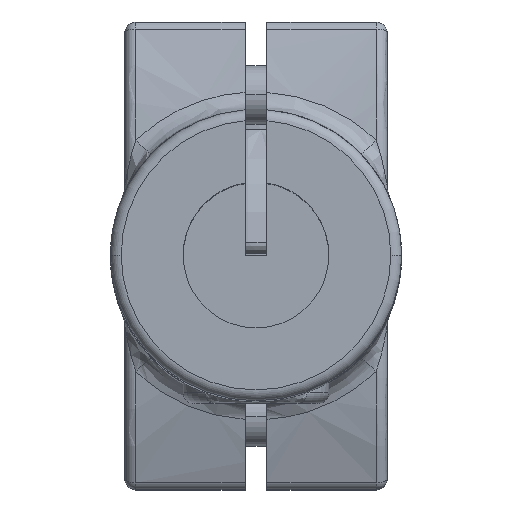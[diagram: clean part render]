
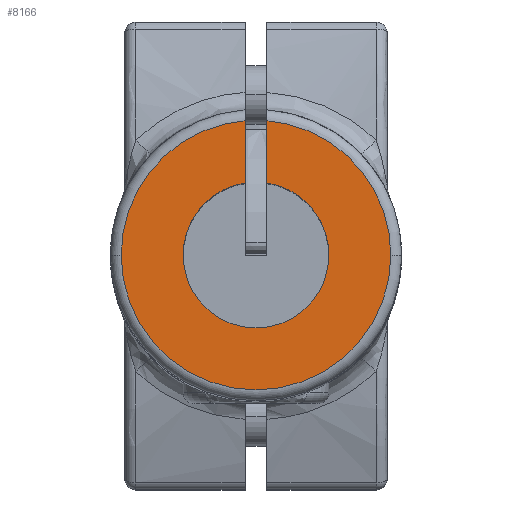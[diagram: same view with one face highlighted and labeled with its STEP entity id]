
A CAD part, top view. The second image highlights one B-rep face of the part: STEP entity #8166.
In plain terms, the highlighted planar face has unit normal (0, 0, 1) as drawn and (0, 0, -1) by its records, which use the part's own axes.
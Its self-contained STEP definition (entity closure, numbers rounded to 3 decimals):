
#92 = ORIENTED_EDGE ( 'NONE', *, *, #7909, .T. ) ;
#336 = VERTEX_POINT ( 'NONE', #3693 ) ;
#367 = CARTESIAN_POINT ( 'NONE',  ( 0., 0., 0. ) ) ;
#1009 = CIRCLE ( 'NONE', #4505, 18.5 ) ;
#1426 = CARTESIAN_POINT ( 'NONE',  ( 0., 0., 0. ) ) ;
#1598 = AXIS2_PLACEMENT_3D ( 'NONE', #14761, #9679, #5649 ) ;
#1609 = ORIENTED_EDGE ( 'NONE', *, *, #4093, .F. ) ;
#1847 = VERTEX_POINT ( 'NONE', #2526 ) ;
#1870 = ORIENTED_EDGE ( 'NONE', *, *, #5693, .T. ) ;
#1890 = EDGE_CURVE ( 'NONE', #10944, #4547, #9833, .T. ) ;
#1894 = DIRECTION ( 'NONE',  ( 0., 0., -1. ) ) ;
#1928 = AXIS2_PLACEMENT_3D ( 'NONE', #13238, #3317, #9751 ) ;
#2526 = CARTESIAN_POINT ( 'NONE',  ( -10., 0., 0. ) ) ;
#2555 = EDGE_CURVE ( 'NONE', #336, #12856, #11498, .T. ) ;
#2960 = DIRECTION ( 'NONE',  ( 1., 0., 0. ) ) ;
#3317 = DIRECTION ( 'NONE',  ( 0., 0., 1. ) ) ;
#3379 = CARTESIAN_POINT ( 'NONE',  ( 1.5, 18.439, 0. ) ) ;
#3693 = CARTESIAN_POINT ( 'NONE',  ( 10., 0., 0. ) ) ;
#4054 = ORIENTED_EDGE ( 'NONE', *, *, #11325, .F. ) ;
#4093 = EDGE_CURVE ( 'NONE', #10944, #12856, #8560, .T. ) ;
#4253 = CIRCLE ( 'NONE', #15449, 18.5 ) ;
#4505 = AXIS2_PLACEMENT_3D ( 'NONE', #13362, #1894, #16028 ) ;
#4547 = VERTEX_POINT ( 'NONE', #14794 ) ;
#4553 = CIRCLE ( 'NONE', #11226, 10. ) ;
#4602 = AXIS2_PLACEMENT_3D ( 'NONE', #13131, #14721, #13454 ) ;
#4749 = AXIS2_PLACEMENT_3D ( 'NONE', #1426, #6533, #2960 ) ;
#4939 = DIRECTION ( 'NONE',  ( -1., 0., 0. ) ) ;
#5239 = VECTOR ( 'NONE', #6802, 1000. ) ;
#5497 = DIRECTION ( 'NONE',  ( 0., 0., -1. ) ) ;
#5649 = DIRECTION ( 'NONE',  ( -1., 0., 0. ) ) ;
#5651 = EDGE_CURVE ( 'NONE', #11985, #7978, #4253, .T. ) ;
#5693 = EDGE_CURVE ( 'NONE', #4547, #11985, #1009, .T. ) ;
#5949 = DIRECTION ( 'NONE',  ( 0., 0., 1. ) ) ;
#6533 = DIRECTION ( 'NONE',  ( 0., 0., -1. ) ) ;
#6802 = DIRECTION ( 'NONE',  ( 0., -1., 0. ) ) ;
#7600 = ORIENTED_EDGE ( 'NONE', *, *, #1890, .T. ) ;
#7909 = EDGE_CURVE ( 'NONE', #1847, #336, #4553, .T. ) ;
#7978 = VERTEX_POINT ( 'NONE', #14990 ) ;
#8100 = ORIENTED_EDGE ( 'NONE', *, *, #5651, .T. ) ;
#8166 = ADVANCED_FACE ( 'NONE', ( #12036 ), #8380, .F. ) ;
#8380 = PLANE ( 'NONE',  #4602 ) ;
#8560 = LINE ( 'NONE', #11994, #5239 ) ;
#9170 = CIRCLE ( 'NONE', #1928, 10. ) ;
#9393 = CARTESIAN_POINT ( 'NONE',  ( -18.5, 0., 0. ) ) ;
#9395 = EDGE_CURVE ( 'NONE', #11784, #1847, #9170, .T. ) ;
#9679 = DIRECTION ( 'NONE',  ( 0., 0., 1. ) ) ;
#9751 = DIRECTION ( 'NONE',  ( -1., 0., 0. ) ) ;
#9833 = CIRCLE ( 'NONE', #4749, 18.5 ) ;
#10594 = DIRECTION ( 'NONE',  ( 0., 1., 0. ) ) ;
#10944 = VERTEX_POINT ( 'NONE', #3379 ) ;
#11226 = AXIS2_PLACEMENT_3D ( 'NONE', #11372, #5949, #4939 ) ;
#11325 = EDGE_CURVE ( 'NONE', #11784, #7978, #14514, .T. ) ;
#11372 = CARTESIAN_POINT ( 'NONE',  ( 0., 0., 0. ) ) ;
#11386 = ORIENTED_EDGE ( 'NONE', *, *, #9395, .T. ) ;
#11498 = CIRCLE ( 'NONE', #1598, 10. ) ;
#11766 = ORIENTED_EDGE ( 'NONE', *, *, #2555, .T. ) ;
#11784 = VERTEX_POINT ( 'NONE', #12805 ) ;
#11985 = VERTEX_POINT ( 'NONE', #9393 ) ;
#11994 = CARTESIAN_POINT ( 'NONE',  ( 1.5, 0., 0. ) ) ;
#12036 = FACE_OUTER_BOUND ( 'NONE', #12209, .T. ) ;
#12209 = EDGE_LOOP ( 'NONE', ( #1609, #7600, #1870, #8100, #4054, #11386, #92, #11766 ) ) ;
#12805 = CARTESIAN_POINT ( 'NONE',  ( -1.5, 9.887, 0. ) ) ;
#12856 = VERTEX_POINT ( 'NONE', #13893 ) ;
#13131 = CARTESIAN_POINT ( 'NONE',  ( 0., 0., 0. ) ) ;
#13238 = CARTESIAN_POINT ( 'NONE',  ( 0., 0., 0. ) ) ;
#13362 = CARTESIAN_POINT ( 'NONE',  ( 0., 0., 0. ) ) ;
#13454 = DIRECTION ( 'NONE',  ( 1., 0., 0. ) ) ;
#13893 = CARTESIAN_POINT ( 'NONE',  ( 1.5, 9.887, 0. ) ) ;
#14514 = LINE ( 'NONE', #14764, #15379 ) ;
#14721 = DIRECTION ( 'NONE',  ( 0., 0., 1. ) ) ;
#14761 = CARTESIAN_POINT ( 'NONE',  ( 0., 0., 0. ) ) ;
#14764 = CARTESIAN_POINT ( 'NONE',  ( -1.5, 0., 0. ) ) ;
#14794 = CARTESIAN_POINT ( 'NONE',  ( 18.5, 0., 0. ) ) ;
#14990 = CARTESIAN_POINT ( 'NONE',  ( -1.5, 18.439, 0. ) ) ;
#15379 = VECTOR ( 'NONE', #10594, 1000. ) ;
#15449 = AXIS2_PLACEMENT_3D ( 'NONE', #367, #5497, #15704 ) ;
#15704 = DIRECTION ( 'NONE',  ( 1., 0., 0. ) ) ;
#16028 = DIRECTION ( 'NONE',  ( 1., 0., 0. ) ) ;
